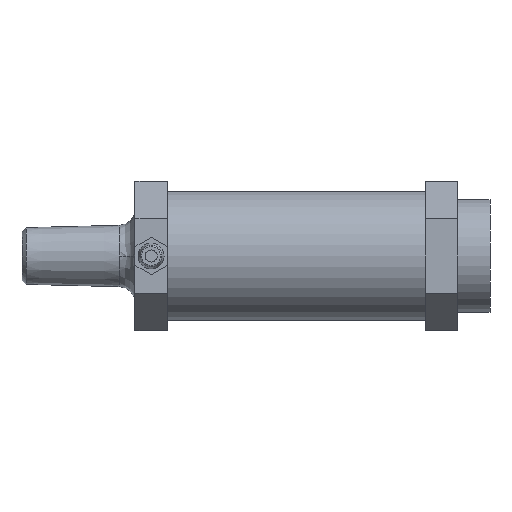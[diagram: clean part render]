
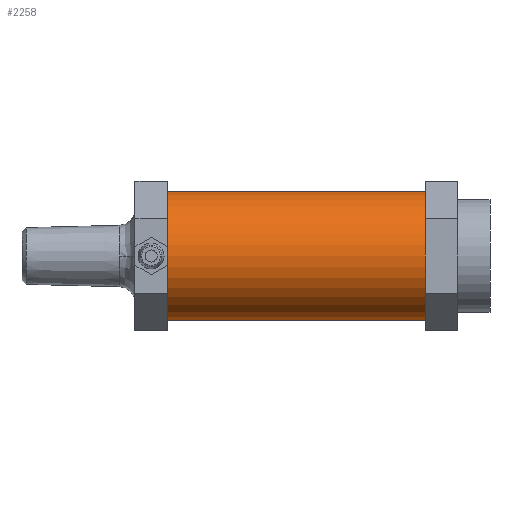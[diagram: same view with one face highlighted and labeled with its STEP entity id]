
A CAD part, front view. The second image highlights one B-rep face of the part: STEP entity #2258.
In plain terms, the highlighted cylindrical face has radius 0.5 mm (diameter 1 mm), a partial arc.
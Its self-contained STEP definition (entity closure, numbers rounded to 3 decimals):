
#2217=CARTESIAN_POINT('',(-2.5,0.0,0.0));
#2218=DIRECTION('',(1.0,0.0,0.0));
#2219=DIRECTION('',(0.0,0.0,-1.0));
#2220=AXIS2_PLACEMENT_3D('',#2217,#2218,#2219);
#2221=CYLINDRICAL_SURFACE('',#2220,0.5);
#2222=CARTESIAN_POINT('',(-0.5,0.0,-0.5));
#2223=VERTEX_POINT('',#2222);
#2224=CARTESIAN_POINT('',(-2.5,0.0,-0.5));
#2225=VERTEX_POINT('',#2224);
#2226=CARTESIAN_POINT('',(-0.5,0.0,-0.5));
#2227=DIRECTION('',(-1.0,0.0,0.0));
#2228=VECTOR('',#2227,2.0);
#2229=LINE('',#2226,#2228);
#2230=EDGE_CURVE('',#2223,#2225,#2229,.T.);
#2231=ORIENTED_EDGE('',*,*,#2230,.F.);
#2232=CARTESIAN_POINT('',(-0.5,0.,0.5));
#2233=VERTEX_POINT('',#2232);
#2234=CARTESIAN_POINT('',(-0.5,0.0,0.0));
#2235=DIRECTION('',(-1.0,0.0,0.0));
#2236=DIRECTION('',(0.0,0.0,-1.0));
#2237=AXIS2_PLACEMENT_3D('',#2234,#2235,#2236);
#2238=CIRCLE('',#2237,0.5);
#2239=EDGE_CURVE('',#2223,#2233,#2238,.T.);
#2240=ORIENTED_EDGE('',*,*,#2239,.T.);
#2241=CARTESIAN_POINT('',(-2.5,0.,0.5));
#2242=VERTEX_POINT('',#2241);
#2243=CARTESIAN_POINT('',(-0.5,0.,0.5));
#2244=DIRECTION('',(-1.0,0.0,0.0));
#2245=VECTOR('',#2244,2.0);
#2246=LINE('',#2243,#2245);
#2247=EDGE_CURVE('',#2233,#2242,#2246,.T.);
#2248=ORIENTED_EDGE('',*,*,#2247,.T.);
#2249=CARTESIAN_POINT('',(-2.5,0.0,0.0));
#2250=DIRECTION('',(1.0,0.0,0.0));
#2251=DIRECTION('',(0.0,0.0,-1.0));
#2252=AXIS2_PLACEMENT_3D('',#2249,#2250,#2251);
#2253=CIRCLE('',#2252,0.5);
#2254=EDGE_CURVE('',#2242,#2225,#2253,.T.);
#2255=ORIENTED_EDGE('',*,*,#2254,.T.);
#2256=EDGE_LOOP('',(#2231,#2240,#2248,#2255));
#2257=FACE_OUTER_BOUND('',#2256,.T.);
#2258=ADVANCED_FACE('',(#2257),#2221,.T.);
